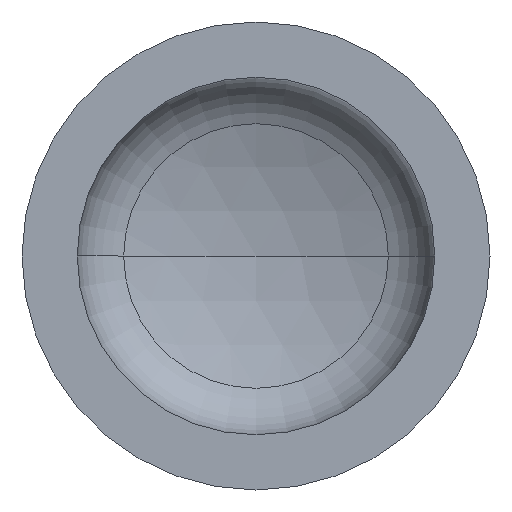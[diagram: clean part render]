
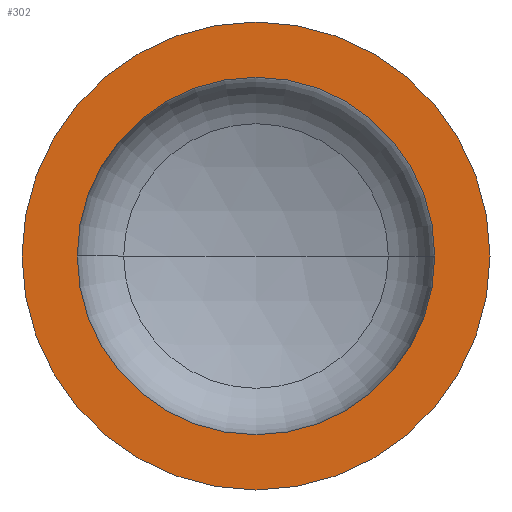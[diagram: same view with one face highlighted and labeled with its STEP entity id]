
A CAD part, front view. The second image highlights one B-rep face of the part: STEP entity #302.
In plain terms, the highlighted planar face has unit normal (0, -1, 0).
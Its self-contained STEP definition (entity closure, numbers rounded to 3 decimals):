
#6 = ORIENTED_EDGE ( 'NONE', *, *, #138, .T. ) ;
#14 = AXIS2_PLACEMENT_3D ( 'NONE', #386, #387, #256 ) ;
#38 = AXIS2_PLACEMENT_3D ( 'NONE', #247, #290, #376 ) ;
#40 = ORIENTED_EDGE ( 'NONE', *, *, #142, .F. ) ;
#45 = AXIS2_PLACEMENT_3D ( 'NONE', #80, #162, #166 ) ;
#63 = EDGE_LOOP ( 'NONE', ( #40, #70 ) ) ;
#70 = ORIENTED_EDGE ( 'NONE', *, *, #368, .F. ) ;
#80 = CARTESIAN_POINT ( 'NONE',  ( -254., 0., 0. ) ) ;
#92 = VERTEX_POINT ( 'NONE', #242 ) ;
#100 = AXIS2_PLACEMENT_3D ( 'NONE', #314, #307, #306 ) ;
#103 = AXIS2_PLACEMENT_3D ( 'NONE', #374, #313, #312 ) ;
#111 = PLANE ( 'NONE',  #45 ) ;
#132 = ORIENTED_EDGE ( 'NONE', *, *, #390, .T. ) ;
#138 = EDGE_CURVE ( 'NONE', #146, #92, #206, .T. ) ;
#142 = EDGE_CURVE ( 'NONE', #147, #163, #269, .T. ) ;
#143 = FACE_OUTER_BOUND ( 'NONE', #223, .T. ) ;
#146 = VERTEX_POINT ( 'NONE', #311 ) ;
#147 = VERTEX_POINT ( 'NONE', #338 ) ;
#158 = CARTESIAN_POINT ( 'NONE',  ( -194., 0., 0. ) ) ;
#162 = DIRECTION ( 'NONE',  ( 0., 1., 0. ) ) ;
#163 = VERTEX_POINT ( 'NONE', #158 ) ;
#166 = DIRECTION ( 'NONE',  ( -1., 0., 0. ) ) ;
#206 = CIRCLE ( 'NONE', #103, 254. ) ;
#223 = EDGE_LOOP ( 'NONE', ( #132, #6 ) ) ;
#242 = CARTESIAN_POINT ( 'NONE',  ( 254., 0., 0. ) ) ;
#247 = CARTESIAN_POINT ( 'NONE',  ( 0., 0., 0. ) ) ;
#256 = DIRECTION ( 'NONE',  ( 1., 0., 0. ) ) ;
#269 = CIRCLE ( 'NONE', #100, 194. ) ;
#276 = CIRCLE ( 'NONE', #14, 254. ) ;
#288 = FACE_BOUND ( 'NONE', #63, .T. ) ;
#290 = DIRECTION ( 'NONE',  ( 0., -1., 0. ) ) ;
#302 = ADVANCED_FACE ( 'NONE', ( #288, #143 ), #111, .F. ) ;
#306 = DIRECTION ( 'NONE',  ( 1., 0., 0. ) ) ;
#307 = DIRECTION ( 'NONE',  ( 0., -1., 0. ) ) ;
#311 = CARTESIAN_POINT ( 'NONE',  ( -254., 0., 0. ) ) ;
#312 = DIRECTION ( 'NONE',  ( 1., 0., 0. ) ) ;
#313 = DIRECTION ( 'NONE',  ( 0., -1., 0. ) ) ;
#314 = CARTESIAN_POINT ( 'NONE',  ( 0., 0., 0. ) ) ;
#338 = CARTESIAN_POINT ( 'NONE',  ( 194., 0., 0. ) ) ;
#368 = EDGE_CURVE ( 'NONE', #163, #147, #397, .T. ) ;
#374 = CARTESIAN_POINT ( 'NONE',  ( 0., 0., 0. ) ) ;
#376 = DIRECTION ( 'NONE',  ( 1., 0., 0. ) ) ;
#386 = CARTESIAN_POINT ( 'NONE',  ( 0., 0., 0. ) ) ;
#387 = DIRECTION ( 'NONE',  ( 0., -1., 0. ) ) ;
#390 = EDGE_CURVE ( 'NONE', #92, #146, #276, .T. ) ;
#397 = CIRCLE ( 'NONE', #38, 194. ) ;
